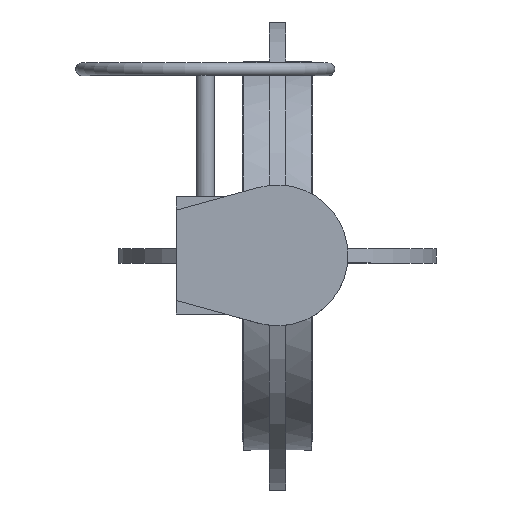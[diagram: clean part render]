
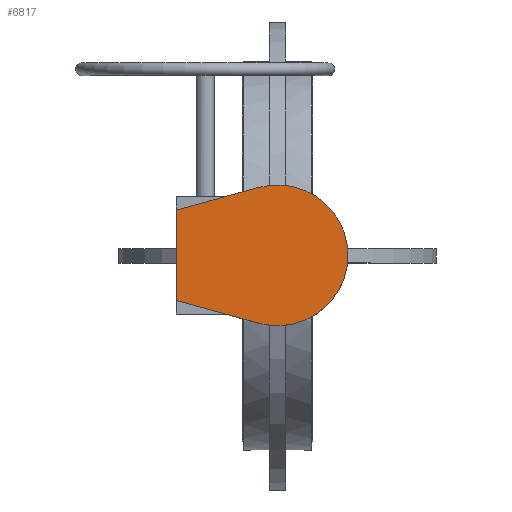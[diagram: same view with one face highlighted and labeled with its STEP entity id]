
A CAD part, top view. The second image highlights one B-rep face of the part: STEP entity #6817.
In plain terms, the highlighted planar face has unit normal (0, 0, 1).
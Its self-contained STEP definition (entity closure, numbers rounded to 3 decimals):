
#6817=ADVANCED_FACE('',(#12350),#12352,.T.);
#12350=FACE_BOUND('',#12351,.T.);
#12351=EDGE_LOOP('',(#16771,#16772,#16773,#16774));
#12352=PLANE('',#12353);
#12353=AXIS2_PLACEMENT_3D('',#12354,#12355,#12356);
#12354=CARTESIAN_POINT('',(0.,0.,439.));
#12355=DIRECTION('',(0.,0.,1.));
#12356=DIRECTION('',(0.,1.,0.));
#16771=ORIENTED_EDGE('',*,*,#19004,.T.);
#16772=ORIENTED_EDGE('',*,*,#19000,.T.);
#16773=ORIENTED_EDGE('',*,*,#18993,.T.);
#16774=ORIENTED_EDGE('',*,*,#18988,.T.);
#18988=EDGE_CURVE('',#22628,#22626,#22629,.T.);
#18993=EDGE_CURVE('',#22636,#22628,#22637,.T.);
#19000=EDGE_CURVE('',#22649,#22636,#22650,.T.);
#19004=EDGE_CURVE('',#22626,#22649,#22655,.T.);
#22626=VERTEX_POINT('',#32577);
#22628=VERTEX_POINT('',#32581);
#22629=LINE('',#32582,#32583);
#22636=VERTEX_POINT('',#32599);
#22637=LINE('',#32600,#32601);
#22649=VERTEX_POINT('',#32626);
#22650=LINE('',#32627,#32628);
#22655=CIRCLE('',#32640,78.);
#32577=CARTESIAN_POINT('',(-20.755,-75.188,439.));
#32581=CARTESIAN_POINT('',(-112.,-50.,439.));
#32582=CARTESIAN_POINT('',(-112.,-50.,439.));
#32583=VECTOR('',#32584,1.);
#32584=DIRECTION('',(0.964,-0.266,0.));
#32599=CARTESIAN_POINT('',(-112.,50.,439.));
#32600=CARTESIAN_POINT('',(-112.,50.,439.));
#32601=VECTOR('',#32602,1.);
#32602=DIRECTION('',(0.,-1.,0.));
#32626=CARTESIAN_POINT('',(-20.755,75.188,439.));
#32627=CARTESIAN_POINT('',(-20.755,75.188,439.));
#32628=VECTOR('',#32629,1.);
#32629=DIRECTION('',(-0.964,-0.266,0.));
#32640=AXIS2_PLACEMENT_3D('',#32641,#32642,#32643);
#32641=CARTESIAN_POINT('',(0.,0.,439.));
#32642=DIRECTION('',(0.,0.,1.));
#32643=DIRECTION('',(-0.266,-0.964,0.));
